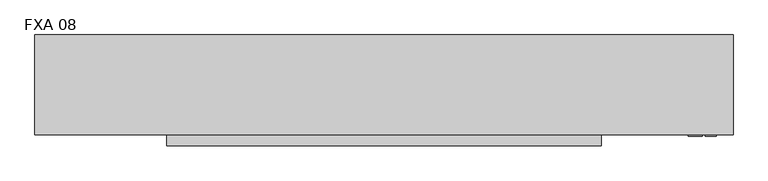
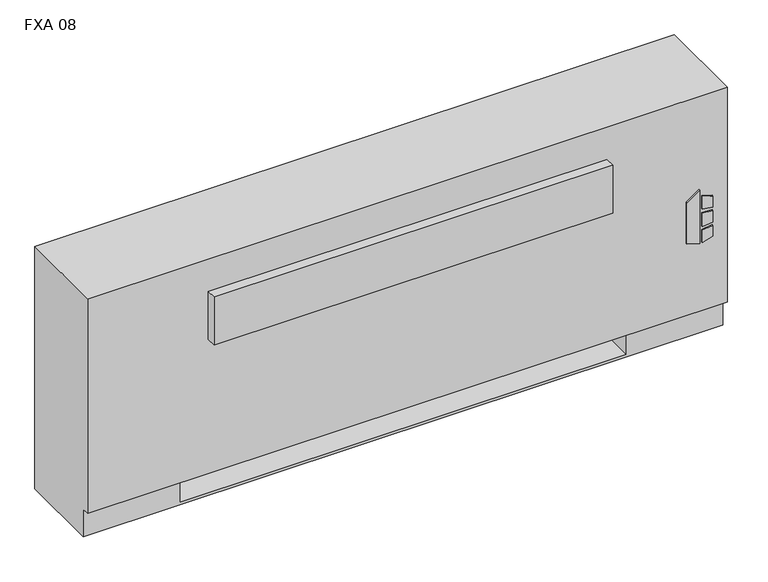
"""IFC4 building model written with IfcOpenShell, lengths in millimetres: proxy geometry, Vertical_Fan_Coil_Unit_-_FXA_-_IEC_-_2-Pipe_FS-FR_RH_2022 : FXA 08."""

from ifc_helpers import new_model, si_unit, point, frame, frame_2d, origin, place, context, project, spatial, polyline, circle_curve, trimmed, segment, composite_curve, outline, extrude, source, transform, mapped, element, save
from ifc_brep_helpers import plane_surface, revolved_surface, advanced_brep


def fxa_08_c117d953(model_context):
    return source(origin(), model_context, "Body", "SolidModel", [
        extrude(outline(polyline([(263.9480703, 849.3868862), (254.0, 881.5602728), (396.1709244, 881.5602728), (373.1489183, 849.3868862), (263.9480703, 849.3868862)])), frame((0.0, 12.7, 0.0), z_axis=(0.0, 1.0, 0.0), x_axis=(0.0, 0.0, 1.0)), (0.0, 0.0, 1.0), 3.175),
        extrude(outline(polyline([(342.9473557, 888.3186058), (339.7449632, 914.4), (368.9738042, 914.4), (377.0382193, 888.3186058), (342.9473557, 888.3186058)])), frame((0.0, 12.7, 0.0), z_axis=(0.0, 1.0, 0.0), x_axis=(0.0, 0.0, 1.0)), (0.0, 0.0, 1.0), 3.175),
        extrude(outline(polyline([(291.0838288, 914.4), (287.4183279, 888.3186058), (254.0, 888.3186058), (262.6342372, 914.4), (291.0838288, 914.4)])), frame((0.0, 12.7, 0.0), z_axis=(0.0, 1.0, 0.0), x_axis=(0.0, 0.0, 1.0)), (0.0, 0.0, 1.0), 3.175),
        extrude(outline(polyline([(330.3989903, 914.4), (332.6808166, 888.3186058), (296.7432681, 888.3186058), (299.4845331, 914.4), (330.3989903, 914.4)])), frame((0.0, 12.7, 0.0), z_axis=(0.0, 1.0, 0.0), x_axis=(0.0, 0.0, 1.0)), (0.0, 0.0, 1.0), 3.175),
        extrude(outline(polyline([(-527.05, 81.534), (-527.05, 223.266), (-406.4, 223.266), (-406.4, 81.534), (-527.05, 81.534)])), frame((0.0, 0.0, 327.025), z_axis=(0.0, 0.0, 1.0), x_axis=(1.0, 0.0, 0.0)), (0.0, 0.0, 1.0), 260.35),
        extrude(outline(composite_curve([segment(trimmed(circle_curve(frame_2d((774.7, 130.175)), 9.525), [point((765.175, 130.175))], [point((784.225, 130.175))], False, "CARTESIAN"), True, "CONTINUOUS"), segment(trimmed(circle_curve(frame_2d((774.7, 130.175)), 9.525), [point((784.225, 130.175))], [point((765.175, 130.175))], False, "CARTESIAN"), True, "CONTINUOUS")], self_intersect=False)), frame((0.0, 0.0, 101.6), z_axis=(0.0, 0.0, 1.0), x_axis=(1.0, 0.0, 0.0)), (0.0, 0.0, 1.0), 25.4),
        extrude(outline(polyline([(876.3, 196.85), (876.3, 63.5), (711.2, 63.5), (711.2, 196.85), (876.3, 196.85)])), frame((0.0, 0.0, 127.0), z_axis=(0.0, 0.0, 1.0), x_axis=(1.0, 0.0, 0.0)), (0.0, 0.0, 1.0), 50.8),
        extrude(outline(polyline([(650.875, -9.525), (-346.075, -9.525), (-346.075, 15.875), (650.875, 15.875), (650.875, -9.525)])), frame((0.0, 0.0, 428.625), z_axis=(0.0, 0.0, 1.0), x_axis=(1.0, 0.0, 0.0)), (0.0, 0.0, 1.0), 127.0),
        extrude(outline(composite_curve([segment(trimmed(circle_curve(frame_2d((93.1926, 485.5972)), 7.9375), [point((93.1926, 493.5347))], [point((93.1926, 477.6597))], False, "CARTESIAN"), True, "CONTINUOUS"), segment(trimmed(circle_curve(frame_2d((93.1926, 485.5972)), 7.9375), [point((93.1926, 477.6597))], [point((93.1926, 493.5347))], False, "CARTESIAN"), True, "CONTINUOUS")], self_intersect=False)), frame((711.2, 0.0, 0.0), z_axis=(1.0, 0.0, 0.0), x_axis=(0.0, 1.0, 0.0)), (0.0, 0.0, 1.0), 50.8),
        extrude(outline(composite_curve([segment(trimmed(circle_curve(frame_2d((141.3002, 458.9526)), 7.9375), [point((141.3002, 466.8901))], [point((141.3002, 451.0151))], False, "CARTESIAN"), True, "CONTINUOUS"), segment(trimmed(circle_curve(frame_2d((141.3002, 458.9526)), 7.9375), [point((141.3002, 451.0151))], [point((141.3002, 466.8901))], False, "CARTESIAN"), True, "CONTINUOUS")], self_intersect=False)), frame((711.2, 0.0, 0.0), z_axis=(1.0, 0.0, 0.0), x_axis=(0.0, 1.0, 0.0)), (0.0, 0.0, 1.0), 50.8),
        advanced_brep(
        [(952.5, 244.475, 641.35), (-647.7, 244.475, 641.35), (-647.7, 15.875, 641.35), (952.5, 15.875, 641.35), (-647.7, 244.475, 0.0), (952.5, 244.475, 0.0), (952.5, 34.925, 0.0), (-647.7, 34.925, 0.0), (711.2, 244.475, 73.025), (939.8, 244.475, 73.025), (939.8, 244.475, 628.65), (711.2, 244.475, 628.65), (711.2, 244.475, 414.8650565), (739.775, 244.475, 414.8650565), (739.775, 244.475, 385.2349435), (711.2, 244.475, 385.2349435), (711.2, 244.475, 287.3375), (739.775, 244.475, 287.3375), (739.775, 244.475, 258.7625), (711.2, 244.475, 258.7625), (711.2, 244.475, 141.2875), (739.775, 244.475, 141.2875), (739.775, 244.475, 112.7125), (711.2, 244.475, 112.7125), (-406.4, 244.475, 628.65), (-635.0, 244.475, 628.65), (-635.0, 244.475, 73.025), (-406.4, 244.475, 73.025), (-406.4, 244.475, 112.7125), (-434.975, 244.475, 112.7125), (-434.975, 244.475, 141.2875), (-406.4, 244.475, 141.2875), (-406.4, 244.475, 258.7625), (-434.975, 244.475, 258.7625), (-434.975, 244.475, 287.3375), (-406.4, 244.475, 287.3375), (-406.4, 244.475, 385.2349435), (-434.975, 244.475, 385.2349435), (-434.975, 244.475, 414.8650565), (-406.4, 244.475, 414.8650565), (729.4626, 244.475, 127.0), (718.3374, 244.475, 127.0), (729.4626, 244.475, 400.05), (718.3374, 244.475, 400.05), (729.4626, 244.475, 273.05), (718.3374, 244.475, 273.05), (-413.5374, 244.475, 127.0), (-424.6626, 244.475, 127.0), (-413.5374, 244.475, 273.05), (-424.6626, 244.475, 273.05), (-413.5374, 244.475, 400.05), (-424.6626, 244.475, 400.05), (-647.7, 34.925, 73.025), (-647.7, 15.875, 73.025), (952.5, 15.875, 73.025), (952.5, 34.925, 73.025), (-406.4, 34.925, 73.025), (-406.4, 219.075, 73.025), (711.2, 219.075, 73.025), (711.2, 34.925, 73.025), (711.2, 34.925, 6.35), (-406.4, 34.925, 6.35), (711.2, 41.275, 628.65), (939.8, 41.275, 628.65), (939.8, 41.275, 73.025), (711.2, 41.275, 73.025), (-406.4, 41.275, 628.65), (-406.4, 41.275, 73.025), (-635.0, 41.275, 73.025), (-635.0, 41.275, 628.65), (711.2, 219.075, 73.025), (711.2, 238.125, 112.7125), (711.2, 238.125, 141.2875), (711.2, 238.125, 258.7625), (711.2, 238.125, 287.3375), (711.2, 238.125, 385.2349435), (711.2, 238.125, 414.8650565), (-406.4, 219.075, 73.025), (-406.4, 238.125, 414.8650565), (-406.4, 238.125, 385.2349435), (-406.4, 238.125, 287.3375), (-406.4, 238.125, 258.7625), (-406.4, 238.125, 141.2875), (-406.4, 238.125, 112.7125), (-406.4, 219.075, 6.35), (711.2, 219.075, 6.35), (739.775, 238.125, 112.7125), (739.775, 238.125, 141.2875), (718.3374, 238.125, 127.0), (729.4626, 238.125, 127.0), (739.775, 238.125, 258.7625), (739.775, 238.125, 287.3375), (718.3374, 238.125, 273.05), (729.4626, 238.125, 273.05), (739.775, 238.125, 385.2349435), (739.775, 238.125, 414.8650565), (718.3374, 238.125, 400.05), (729.4626, 238.125, 400.05), (-434.975, 238.125, 141.2875), (-434.975, 238.125, 112.7125), (-424.6626, 238.125, 127.0), (-413.5374, 238.125, 127.0), (-434.975, 238.125, 287.3375), (-434.975, 238.125, 258.7625), (-424.6626, 238.125, 273.05), (-413.5374, 238.125, 273.05), (-434.975, 238.125, 414.8650565), (-434.975, 238.125, 385.2349435), (-424.6626, 238.125, 400.05), (-413.5374, 238.125, 400.05)],
        [
            (0, 1),
            (1, 2),
            (2, 3),
            (3, 0),
            (4, 5),
            (5, 6),
            (6, 7),
            (7, 4),
            (0, 5),
            (4, 1),
            (8, 9),
            (9, 10),
            (10, 11),
            (11, 12),
            (12, 13),
            (13, 14),
            (14, 15),
            (15, 16),
            (16, 17),
            (17, 18),
            (18, 19),
            (19, 20),
            (20, 21),
            (21, 22),
            (22, 23),
            (23, 8),
            (24, 25),
            (25, 26),
            (26, 27),
            (27, 28),
            (28, 29),
            (29, 30),
            (30, 31),
            (31, 32),
            (32, 33),
            (33, 34),
            (34, 35),
            (35, 36),
            (36, 37),
            (37, 38),
            (38, 39),
            (39, 24),
            (40, 41, circle_curve(frame((723.9, 244.475, 127.0), z_axis=(0.0, -1.0, 0.0), x_axis=(-1.0, 0.0, 0.0)), 5.5626)),
            (41, 40, circle_curve(frame((723.9, 244.475, 127.0), z_axis=(0.0, -1.0, 0.0), x_axis=(-1.0, 0.0, 0.0)), 5.5626)),
            (42, 43, circle_curve(frame((723.9, 244.475, 400.05), z_axis=(0.0, -1.0, 0.0), x_axis=(-1.0, 0.0, 0.0)), 5.5626)),
            (43, 42, circle_curve(frame((723.9, 244.475, 400.05), z_axis=(0.0, -1.0, 0.0), x_axis=(-1.0, 0.0, 0.0)), 5.5626)),
            (44, 45, circle_curve(frame((723.9, 244.475, 273.05), z_axis=(0.0, -1.0, 0.0), x_axis=(-1.0, 0.0, 0.0)), 5.5626)),
            (45, 44, circle_curve(frame((723.9, 244.475, 273.05), z_axis=(0.0, -1.0, 0.0), x_axis=(-1.0, 0.0, 0.0)), 5.5626)),
            (46, 47, circle_curve(frame((-419.1, 244.475, 127.0), z_axis=(0.0, -1.0, 0.0), x_axis=(-1.0, 0.0, 0.0)), 5.5626)),
            (47, 46, circle_curve(frame((-419.1, 244.475, 127.0), z_axis=(0.0, -1.0, 0.0), x_axis=(-1.0, 0.0, 0.0)), 5.5626)),
            (48, 49, circle_curve(frame((-419.1, 244.475, 273.05), z_axis=(0.0, -1.0, 0.0), x_axis=(-1.0, 0.0, 0.0)), 5.5626)),
            (49, 48, circle_curve(frame((-419.1, 244.475, 273.05), z_axis=(0.0, -1.0, 0.0), x_axis=(-1.0, 0.0, 0.0)), 5.5626)),
            (50, 51, circle_curve(frame((-419.1, 244.475, 400.05), z_axis=(0.0, -1.0, 0.0), x_axis=(-1.0, 0.0, 0.0)), 5.5626)),
            (51, 50, circle_curve(frame((-419.1, 244.475, 400.05), z_axis=(0.0, -1.0, 0.0), x_axis=(-1.0, 0.0, 0.0)), 5.5626)),
            (7, 52),
            (52, 53),
            (53, 2),
            (53, 54),
            (54, 3),
            (54, 55),
            (55, 6),
            (52, 56),
            (56, 57),
            (57, 58),
            (58, 59),
            (59, 55),
            (59, 60),
            (60, 61),
            (61, 56),
            (62, 63),
            (63, 64),
            (64, 65),
            (65, 62),
            (66, 67),
            (67, 68),
            (68, 69),
            (69, 66),
            (65, 70),
            (70, 8),
            (23, 71),
            (71, 72),
            (72, 20),
            (19, 73),
            (73, 74),
            (74, 16),
            (15, 75),
            (75, 76),
            (76, 12),
            (11, 62),
            (64, 9),
            (63, 10),
            (69, 25),
            (24, 66),
            (68, 26),
            (67, 77),
            (77, 27),
            (39, 78),
            (78, 79),
            (79, 36),
            (35, 80),
            (80, 81),
            (81, 32),
            (31, 82),
            (82, 83),
            (83, 28),
            (57, 84),
            (84, 85),
            (85, 58),
            (85, 60),
            (84, 61),
            (71, 86),
            (86, 87),
            (87, 72),
            (88, 89, circle_curve(frame((723.9, 238.125, 127.0), z_axis=(0.0, 1.0, 0.0), x_axis=(-1.0, 0.0, 0.0)), 5.5626)),
            (89, 88, circle_curve(frame((723.9, 238.125, 127.0), z_axis=(0.0, 1.0, 0.0), x_axis=(-1.0, 0.0, 0.0)), 5.5626)),
            (73, 90),
            (90, 91),
            (91, 74),
            (92, 93, circle_curve(frame((723.9, 238.125, 273.05), z_axis=(0.0, 1.0, 0.0), x_axis=(-1.0, 0.0, 0.0)), 5.5626)),
            (93, 92, circle_curve(frame((723.9, 238.125, 273.05), z_axis=(0.0, 1.0, 0.0), x_axis=(-1.0, 0.0, 0.0)), 5.5626)),
            (75, 94),
            (94, 95),
            (95, 76),
            (96, 97, circle_curve(frame((723.9, 238.125, 400.05), z_axis=(0.0, 1.0, 0.0), x_axis=(-1.0, 0.0, 0.0)), 5.5626)),
            (97, 96, circle_curve(frame((723.9, 238.125, 400.05), z_axis=(0.0, 1.0, 0.0), x_axis=(-1.0, 0.0, 0.0)), 5.5626)),
            (98, 99),
            (99, 83),
            (82, 98),
            (100, 101, circle_curve(frame((-419.1, 238.125, 127.0), z_axis=(0.0, 1.0, 0.0), x_axis=(-1.0, 0.0, 0.0)), 5.5626)),
            (101, 100, circle_curve(frame((-419.1, 238.125, 127.0), z_axis=(0.0, 1.0, 0.0), x_axis=(-1.0, 0.0, 0.0)), 5.5626)),
            (102, 103),
            (103, 81),
            (80, 102),
            (104, 105, circle_curve(frame((-419.1, 238.125, 273.05), z_axis=(0.0, 1.0, 0.0), x_axis=(-1.0, 0.0, 0.0)), 5.5626)),
            (105, 104, circle_curve(frame((-419.1, 238.125, 273.05), z_axis=(0.0, 1.0, 0.0), x_axis=(-1.0, 0.0, 0.0)), 5.5626)),
            (106, 107),
            (107, 79),
            (78, 106),
            (108, 109, circle_curve(frame((-419.1, 238.125, 400.05), z_axis=(0.0, 1.0, 0.0), x_axis=(-1.0, 0.0, 0.0)), 5.5626)),
            (109, 108, circle_curve(frame((-419.1, 238.125, 400.05), z_axis=(0.0, 1.0, 0.0), x_axis=(-1.0, 0.0, 0.0)), 5.5626)),
            (87, 21),
            (86, 22),
            (91, 17),
            (90, 18),
            (95, 13),
            (94, 14),
            (30, 98),
            (99, 29),
            (34, 102),
            (103, 33),
            (38, 106),
            (107, 37),
            (88, 41),
            (40, 89),
            (96, 43),
            (42, 97),
            (92, 45),
            (44, 93),
            (100, 47),
            (46, 101),
            (104, 49),
            (48, 105),
            (108, 51),
            (50, 109),
        ],
        [
            plane_surface(frame((-647.7, 244.475, 641.35), z_axis=(0.0, 0.0, 1.0), x_axis=(-1.0, 0.0, 0.0))),
            plane_surface(frame((-647.7, 244.475, 0.0), z_axis=(0.0, 0.0, -1.0), x_axis=(1.0, 0.0, 0.0))),
            plane_surface(frame((952.5, 244.475, 641.35), z_axis=(0.0, 1.0, 0.0), x_axis=(0.0, 0.0, -1.0))),
            plane_surface(frame((-647.7, 244.475, 641.35), z_axis=(-1.0, 0.0, 0.0), x_axis=(0.0, 0.0, -1.0))),
            plane_surface(frame((-647.7, 15.875, 641.35), z_axis=(0.0, -1.0, 0.0), x_axis=(0.0, 0.0, -1.0))),
            plane_surface(frame((952.5, 15.875, 641.35), z_axis=(1.0, 0.0, 0.0), x_axis=(0.0, 0.0, -1.0))),
            plane_surface(frame((-647.7, 15.875, 73.025), z_axis=(0.0, 0.0, -1.0), x_axis=(1.0, 0.0, 0.0))),
            plane_surface(frame((-647.7, 34.925, 73.025), z_axis=(0.0, -1.0, 0.0), x_axis=(1.0, 0.0, 0.0))),
            plane_surface(frame((711.2, 41.275, 628.65), z_axis=(0.0, 1.0, 0.0), x_axis=(0.0, 0.0, -1.0))),
            plane_surface(frame((711.2, 41.275, 628.65), z_axis=(1.0, 0.0, 0.0), x_axis=(0.0, 1.0, 0.0))),
            plane_surface(frame((711.2, 41.275, 73.025), z_axis=(0.0, 0.0, 1.0), x_axis=(0.0, 1.0, 0.0))),
            plane_surface(frame((939.8, 41.275, 73.025), z_axis=(-1.0, 0.0, 0.0), x_axis=(0.0, 1.0, 0.0))),
            plane_surface(frame((939.8, 41.275, 628.65), z_axis=(0.0, 0.0, -1.0), x_axis=(0.0, 1.0, 0.0))),
            plane_surface(frame((-406.4, 41.275, 628.65), z_axis=(0.0, 0.0, -1.0), x_axis=(0.0, 1.0, 0.0))),
            plane_surface(frame((-635.0, 41.275, 628.65), z_axis=(1.0, 0.0, 0.0), x_axis=(0.0, 1.0, 0.0))),
            plane_surface(frame((-635.0, 41.275, 73.025), z_axis=(0.0, 0.0, 1.0), x_axis=(0.0, 1.0, 0.0))),
            plane_surface(frame((-406.4, 41.275, 73.025), z_axis=(-1.0, 0.0, 0.0), x_axis=(0.0, 1.0, 0.0))),
            plane_surface(frame((711.2, 219.075, 73.025), z_axis=(0.0, -1.0, 0.0), x_axis=(0.0, 0.0, -1.0))),
            plane_surface(frame((711.2, 219.075, 73.025), z_axis=(-1.0, 0.0, 0.0), x_axis=(0.0, -1.0, 0.0))),
            plane_surface(frame((711.2, 219.075, 6.35), z_axis=(0.0, 0.0, 1.0), x_axis=(0.0, -1.0, 0.0))),
            plane_surface(frame((-406.4, 219.075, 6.35), z_axis=(1.0, 0.0, 0.0), x_axis=(0.0, -1.0, 0.0))),
            plane_surface(frame((739.775, 238.125, 141.2875), z_axis=(0.0, -1.0, 0.0), x_axis=(-1.0, 0.0, 0.0))),
            plane_surface(frame((711.2, 244.475, 141.2875), z_axis=(0.0, 0.0, 1.0), x_axis=(0.0, -1.0, 0.0))),
            plane_surface(frame((739.775, 244.475, 141.2875), z_axis=(1.0, 0.0, 0.0), x_axis=(0.0, -1.0, 0.0))),
            plane_surface(frame((739.775, 244.475, 112.7125), z_axis=(0.0, 0.0, -1.0), x_axis=(0.0, -1.0, 0.0))),
            plane_surface(frame((711.2, 244.475, 287.3375), z_axis=(0.0, 0.0, 1.0), x_axis=(0.0, -1.0, 0.0))),
            plane_surface(frame((739.775, 244.475, 287.3375), z_axis=(1.0, 0.0, 0.0), x_axis=(0.0, -1.0, 0.0))),
            plane_surface(frame((739.775, 244.475, 258.7625), z_axis=(0.0, 0.0, -1.0), x_axis=(0.0, -1.0, 0.0))),
            plane_surface(frame((711.2, 244.475, 414.8650565), z_axis=(0.0, 0.0, 1.0), x_axis=(0.0, -1.0, 0.0))),
            plane_surface(frame((739.775, 244.475, 414.8650565), z_axis=(1.0, 0.0, 0.0), x_axis=(0.0, -1.0, 0.0))),
            plane_surface(frame((739.775, 244.475, 385.2349435), z_axis=(0.0, 0.0, -1.0), x_axis=(0.0, -1.0, 0.0))),
            plane_surface(frame((-434.975, 244.475, 141.2875), z_axis=(0.0, 0.0, 1.0), x_axis=(0.0, -1.0, 0.0))),
            plane_surface(frame((-406.4, 244.475, 112.7125), z_axis=(0.0, 0.0, -1.0), x_axis=(0.0, -1.0, 0.0))),
            plane_surface(frame((-434.975, 244.475, 112.7125), z_axis=(-1.0, 0.0, 0.0), x_axis=(0.0, -1.0, 0.0))),
            plane_surface(frame((-434.975, 244.475, 287.3375), z_axis=(0.0, 0.0, 1.0), x_axis=(0.0, -1.0, 0.0))),
            plane_surface(frame((-406.4, 244.475, 258.7625), z_axis=(0.0, 0.0, -1.0), x_axis=(0.0, -1.0, 0.0))),
            plane_surface(frame((-434.975, 244.475, 258.7625), z_axis=(-1.0, 0.0, 0.0), x_axis=(0.0, -1.0, 0.0))),
            plane_surface(frame((-434.975, 244.475, 414.8650565), z_axis=(0.0, 0.0, 1.0), x_axis=(0.0, -1.0, 0.0))),
            plane_surface(frame((-406.4, 244.475, 385.2349435), z_axis=(0.0, 0.0, -1.0), x_axis=(0.0, -1.0, 0.0))),
            plane_surface(frame((-434.975, 244.475, 385.2349435), z_axis=(-1.0, 0.0, 0.0), x_axis=(0.0, -1.0, 0.0))),
            revolved_surface(polyline([(718.3374, 238.125, 127.0), (718.3374, 244.475, 127.0)]), (723.9, 244.475, 127.0), (0.0, -1.0, 0.0)),
            revolved_surface(polyline([(718.3374, 238.125, 400.05), (718.3374, 244.475, 400.05)]), (723.9, 244.475, 400.05), (0.0, -1.0, 0.0)),
            revolved_surface(polyline([(718.3374, 238.125, 273.05), (718.3374, 244.475, 273.05)]), (723.9, 244.475, 273.05), (0.0, -1.0, 0.0)),
            revolved_surface(polyline([(-424.6626, 238.125, 127.0), (-424.6626, 244.475, 127.0)]), (-419.1, 244.475, 127.0), (0.0, -1.0, 0.0)),
            revolved_surface(polyline([(-424.6626, 238.125, 273.05), (-424.6626, 244.475, 273.05)]), (-419.1, 244.475, 273.05), (0.0, -1.0, 0.0)),
            revolved_surface(polyline([(-424.6626, 238.125, 400.05), (-424.6626, 244.475, 400.05)]), (-419.1, 244.475, 400.05), (0.0, -1.0, 0.0)),
        ],
        [
            (0, [[1, 2, 3, 4]]),
            (1, [[5, 6, 7, 8]]),
            (2, [[-1, 9, -5, 10], [11, 12, 13, 14, 15, 16, 17, 18, 19, 20, 21, 22, 23, 24, 25, 26], [27, 28, 29, 30, 31, 32, 33, 34, 35, 36, 37, 38, 39, 40, 41, 42], [43, 44], [45, 46], [47, 48], [49, 50], [51, 52], [53, 54]]),
            (3, [[-2, -10, -8, 55, 56, 57]]),
            (4, [[-3, -57, 58, 59]]),
            (5, [[-4, -59, 60, 61, -6, -9]]),
            (6, [[-56, 62, 63, 64, 65, 66, -60, -58]]),
            (7, [[-7, -61, -66, 67, 68, 69, -62, -55]]),
            (8, [[70, 71, 72, 73]]),
            (8, [[74, 75, 76, 77]]),
            (9, [[-73, 78, 79, -26, 80, 81, 82, -22, 83, 84, 85, -18, 86, 87, 88, -14, 89]]),
            (10, [[-72, 90, -11, -79, -78]]),
            (11, [[-71, 91, -12, -90]]),
            (12, [[-70, -89, -13, -91]]),
            (13, [[-77, 92, -27, 93]]),
            (14, [[-76, 94, -28, -92]]),
            (15, [[-75, 95, 96, -29, -94]]),
            (16, [[-74, -93, -42, 97, 98, 99, -38, 100, 101, 102, -34, 103, 104, 105, -30, -96, -95]]),
            (17, [[-64, 106, 107, 108]]),
            (18, [[-108, 109, -67, -65]]),
            (19, [[-107, 110, -68, -109]]),
            (20, [[-106, -63, -69, -110]]),
            (21, [[111, 112, 113, -81], [114, 115]]),
            (21, [[116, 117, 118, -84], [119, 120]]),
            (21, [[121, 122, 123, -87], [124, 125]]),
            (21, [[126, 127, -104, 128], [129, 130]]),
            (21, [[131, 132, -101, 133], [134, 135]]),
            (21, [[136, 137, -98, 138], [139, 140]]),
            (22, [[-113, 141, -23, -82]]),
            (23, [[-112, 142, -24, -141]]),
            (24, [[-111, -80, -25, -142]]),
            (25, [[-118, 143, -19, -85]]),
            (26, [[-117, 144, -20, -143]]),
            (27, [[-116, -83, -21, -144]]),
            (28, [[-123, 145, -15, -88]]),
            (29, [[-122, 146, -16, -145]]),
            (30, [[-121, -86, -17, -146]]),
            (31, [[-128, -103, -33, 147]]),
            (32, [[-127, 148, -31, -105]]),
            (33, [[-126, -147, -32, -148]]),
            (34, [[-133, -100, -37, 149]]),
            (35, [[-132, 150, -35, -102]]),
            (36, [[-131, -149, -36, -150]]),
            (37, [[-138, -97, -41, 151]]),
            (38, [[-137, 152, -39, -99]]),
            (39, [[-136, -151, -40, -152]]),
            (40, [[153, -43, 154, -114]]),
            (40, [[-153, -115, -154, -44]]),
            (41, [[155, -45, 156, -124]]),
            (41, [[-155, -125, -156, -46]]),
            (42, [[157, -47, 158, -119]]),
            (42, [[-157, -120, -158, -48]]),
            (43, [[159, -49, 160, -129]]),
            (43, [[-159, -130, -160, -50]]),
            (44, [[161, -51, 162, -134]]),
            (44, [[-161, -135, -162, -52]]),
            (45, [[163, -53, 164, -139]]),
            (45, [[-163, -140, -164, -54]]),
        ],
    ),
    ])


if __name__ == "__main__":
    model = new_model("IFC4")
    model_context = context("Model", 3, world=origin())
    ifc_project = project(units=[si_unit("LENGTHUNIT", "METRE", prefix="MILLI")], contexts=[model_context])
    site = spatial("IfcSite", under=ifc_project)
    building = spatial("IfcBuilding", under=site)
    placement = place(None, origin())
    fxa_08_shape = fxa_08_c117d953(model_context)
    element("IfcBuildingElementProxy", 1, Name="Vertical_Fan_Coil_Unit_-_FXA_-_IEC_-_2-Pipe_FS-FR_RH_2022 : FXA 08", ObjectType="Vertical_Fan_Coil_Unit_-_FXA_-_IEC_-_2-Pipe_FS-FR_RH_2022 : FXA 08", at=placement, inside=building, context=model_context, shape_type="MappedRepresentation", body=[
        mapped(fxa_08_shape, transform((0.0, 0.0, 0.0), x_axis=(1.0, 0.0, 0.0), y_axis=(0.0, 1.0, 0.0), z_axis=(0.0, 0.0, 1.0))),
    ])
    save(model, "model.ifc")
